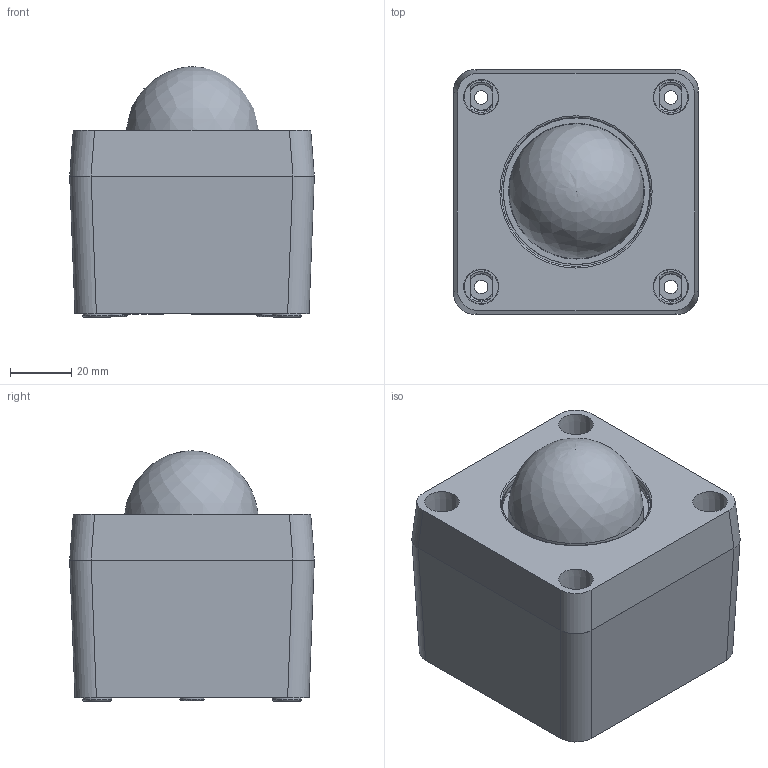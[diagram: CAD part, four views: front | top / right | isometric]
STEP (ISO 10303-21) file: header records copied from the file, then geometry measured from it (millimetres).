
FILE_DESCRIPTION(('FreeCAD Model'),'2;1');
FILE_NAME('Open CASCADE Shape Model','2025-10-16T10:54:50',(''),(''), 'Open CASCADE STEP processor 7.6','FreeCAD','Unknown');
FILE_SCHEMA(('AUTOMOTIVE_DESIGN { 1 0 10303 214 1 1 1 1 }'));
Length unit declared in the file: millimetre
Products named in the file (6): CameraCase80 Simplified; CameraCase80 Cap 002; CameraCase80 Body 002; O Ring 002; Dome D48H28 002; DomeBracket 002
Assembly tree (5 placements, depth 2):
  CameraCase80 Simplified
    CameraCase80 Cap 002
    CameraCase80 Body 002
    O Ring 002
    Dome D48H28 002
    DomeBracket 002
Bounding box: 80 x 80 x 81.84 mm (x, y, z)
Volume: 55316.9 mm3; surface area: 80406.9 mm2
Topology: 4 solids, 5 shells, 747 faces, 2003 edges, 1330 vertices
Faces by surface type: plane 360, cylinder 146, bspline 128, extrusion 78, cone 23, torus 10, revolution 2
Full cylindrical faces by diameter (mm): 3.48 x8, 4.2 x4, 4.384 x4, 6.974 x4, 8 x2, 8.5 x2, 9 x2, 9.5 x4, 11.955 x4, 48.8 x1, 53.2 x1, 59.2 x1, 62 x1
Entity records: 118235 total; most frequent: CARTESIAN_POINT 100977, ORIENTED_EDGE 3978, DIRECTION 2787, EDGE_CURVE 2002, VERTEX_POINT 1330, VECTOR 943, AXIS2_PLACEMENT_3D 921, LINE 865
